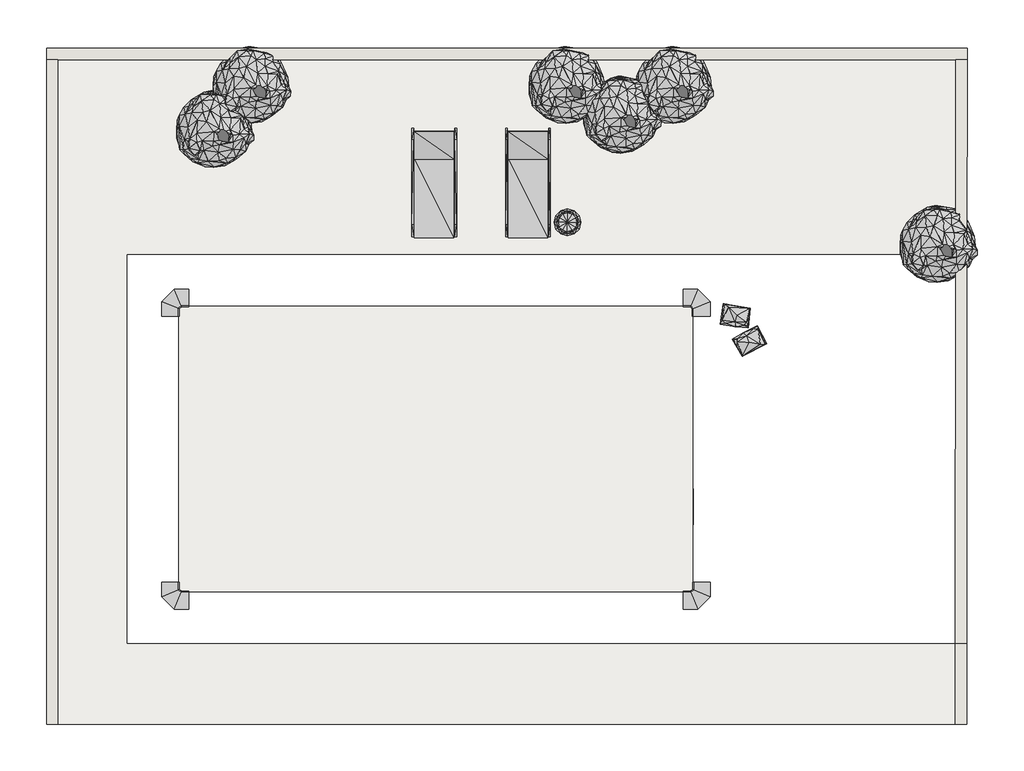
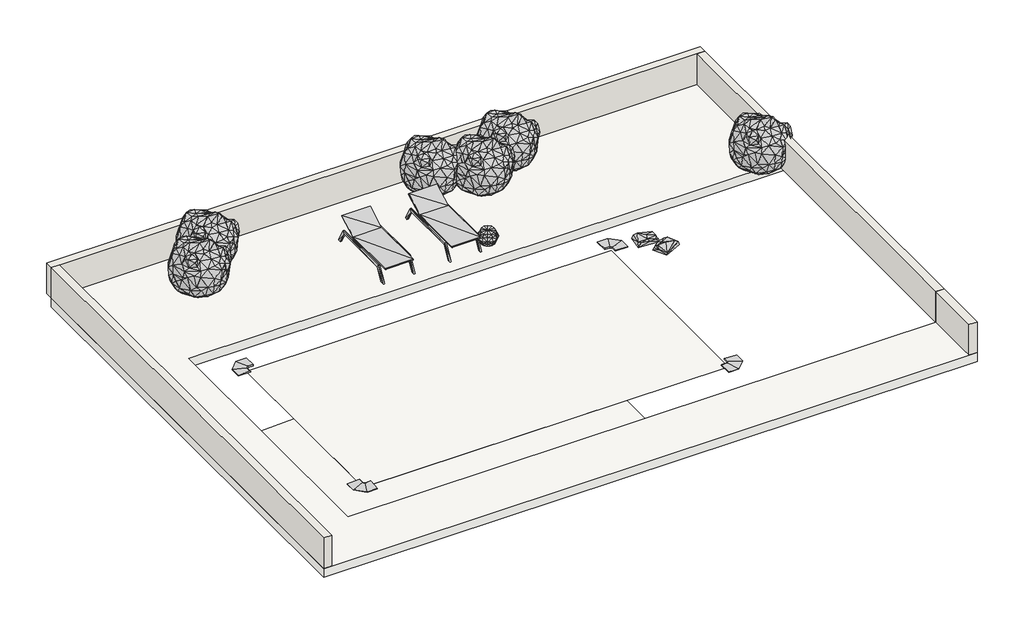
# One storey, incomplete: 11 geographic elements, 6 proxies, 5 walls, 4 slabs.
"""IFC4 building model written with IfcOpenShell, lengths in millimetres."""

from ifc_helpers import new_model, si_unit, frame, origin, origin_with_axes, place, context, project, spatial, polyline, outline, extrude, faceted_brep, transform, mapped, element, save
from components import generic_models_4be8d311, generic_models_225379f4, generic_models_d8669382, geographic_element_0c4992a3, geographic_element_0adfae54, enscape_assetdefinition_basket_enscape_assetdefinition_b8fa298a, enscape_assetdefinition_throw_enscape_assetdefinition_throw_fa2a812f

model = new_model("IFC4")

# Units and contexts
model_context = context("Model", 3, world=origin())
ifc_project = project(units=[si_unit("LENGTHUNIT", "METRE", prefix="MILLI")], contexts=[model_context])

# Site, building, storey
site = spatial("IfcSite", under=ifc_project)
building = spatial("IfcBuilding", under=site)
storey = spatial("IfcBuildingStorey", under=building, Name="1_NPlaya", Elevation=0.0)

# Proxies
placement = place(None, origin())
generic_models_shape = generic_models_4be8d311(model_context)
element("IfcBuildingElementProxy", 1, Name="ROSA GRES_E62 : Pieza E62_Serena_Ocra_Anti-Slip", ObjectType="ROSA GRES_E62 : Pieza E62_Serena_Ocra_Anti-Slip", at=placement, inside=storey, context=model_context, shape_type="MappedRepresentation", body=[
    mapped(generic_models_shape, transform((11999.2952669, 8887.3666411, -250.0), x_axis=(0.999999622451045, -0.0008689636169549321, 0.0), y_axis=(0.0008689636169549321, 0.999999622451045, 0.0), z_axis=(0.0, 0.0, 1.0))),
])
generic_models_2_shape = generic_models_225379f4(model_context)
element("IfcBuildingElementProxy", 2, Name="ROSA GRES_DL1 : Pieza DL1_Serena_Ocra_Anti-Slip", ObjectType="ROSA GRES_DL1 : Pieza DL1_Serena_Ocra_Anti-Slip", at=placement, inside=storey, context=model_context, shape_type="MappedRepresentation", body=[
    mapped(generic_models_2_shape, transform((10486.7115182, 8892.2561402, -288.0), x_axis=(0.0, -1.0, 0.0), y_axis=(1.0, 0.0, 0.0), z_axis=(0.0, 0.0, 1.0))),
])
generic_models_3_shape = generic_models_d8669382(model_context)
element("IfcBuildingElementProxy", 3, Name="ROSA GRES_SI3 : Pieza SI3_Serena_Ocra_Anti-Slip", ObjectType="ROSA GRES_SI3 : Pieza SI3_Serena_Ocra_Anti-Slip", at=placement, inside=storey, context=model_context, shape_type="MappedRepresentation", body=[
    mapped(generic_models_3_shape, transform((3004.8805511, 7090.52795, -12.2710273), x_axis=(-1.0, 0.0, 0.0), y_axis=(0.0, -1.0, 0.0), z_axis=(0.0, 0.0, 1.0))),
])
element("IfcBuildingElementProxy", 4, Name="ROSA GRES_SI3 : Pieza SI3_Serena_Ocra_Anti-Slip", ObjectType="ROSA GRES_SI3 : Pieza SI3_Serena_Ocra_Anti-Slip", at=placement, inside=storey, context=model_context, shape_type="MappedRepresentation", body=[
    mapped(generic_models_3_shape, transform((11993.3829178, 7090.7466993, -12.0175843), x_axis=(0.0, -1.0, 0.0), y_axis=(1.0, 0.0, 0.0), z_axis=(0.0, 0.0, 1.0))),
])
element("IfcBuildingElementProxy", 5, Name="ROSA GRES_SI3 : Pieza SI3_Serena_Ocra_Anti-Slip", ObjectType="ROSA GRES_SI3 : Pieza SI3_Serena_Ocra_Anti-Slip", at=placement, inside=storey, context=model_context, shape_type="MappedRepresentation", body=[
    mapped(generic_models_3_shape, transform((11993.0095542, 12079.1311411, -12.0), x_axis=(1.0, 0.0, 0.0), y_axis=(0.0, 1.0, 0.0), z_axis=(0.0, 0.0, 1.0))),
])
element("IfcBuildingElementProxy", 6, Name="ROSA GRES_SI3 : Pieza SI3_Serena_Ocra_Anti-Slip", ObjectType="ROSA GRES_SI3 : Pieza SI3_Serena_Ocra_Anti-Slip", at=placement, inside=storey, context=model_context, shape_type="MappedRepresentation", body=[
    mapped(generic_models_3_shape, transform((3004.8845491, 12079.1782457, -12.0022683), x_axis=(0.0, 1.0, 0.0), y_axis=(-1.0, 0.0, 0.0), z_axis=(0.0, 0.0, 1.0))),
])

# Geographic elements
geographic_element_shape = geographic_element_0c4992a3(model_context)
element("IfcGeographicElement", 7, ObjectType="Enscape AssetDefinition - Balm Bush : Enscape AssetDefinition - Balm Bush", at=placement, inside=storey, context=model_context, shape_type="MappedRepresentation", body=[
    mapped(geographic_element_shape, transform((3604.9159082, 15264.7561359, 0.0), x_axis=(1.0, 0.0, 0.0), y_axis=(0.0, 1.0, 0.0), z_axis=(0.0, 0.0, 1.0))),
])
element("IfcGeographicElement", 8, ObjectType="Enscape AssetDefinition - Balm Bush : Enscape AssetDefinition - Balm Bush", at=placement, inside=storey, context=model_context, shape_type="MappedRepresentation", body=[
    mapped(geographic_element_shape, transform((4250.7299409, 16034.9330082, 0.0), x_axis=(1.0, 0.0, 0.0), y_axis=(0.0, 1.0, 0.0), z_axis=(0.0, 0.0, 1.0))),
])
element("IfcGeographicElement", 9, ObjectType="Enscape AssetDefinition - Balm Bush : Enscape AssetDefinition - Balm Bush", at=placement, inside=storey, context=model_context, shape_type="MappedRepresentation", body=[
    mapped(geographic_element_shape, transform((9777.2422029, 16034.9330082, 0.0), x_axis=(1.0, 0.0, 0.0), y_axis=(0.0, 1.0, 0.0), z_axis=(0.0, 0.0, 1.0))),
])
element("IfcGeographicElement", 10, ObjectType="Enscape AssetDefinition - Balm Bush : Enscape AssetDefinition - Balm Bush", at=placement, inside=storey, context=model_context, shape_type="MappedRepresentation", body=[
    mapped(geographic_element_shape, transform((10732.4086368, 15514.9330082, 0.0), x_axis=(1.0, 0.0, 0.0), y_axis=(0.0, 1.0, 0.0), z_axis=(0.0, 0.0, 1.0))),
])
element("IfcGeographicElement", 11, ObjectType="Enscape AssetDefinition - Balm Bush : Enscape AssetDefinition - Balm Bush", at=placement, inside=storey, context=model_context, shape_type="MappedRepresentation", body=[
    mapped(geographic_element_shape, transform((11651.0201316, 16034.9330082, 0.0), x_axis=(1.0, 0.0, 0.0), y_axis=(0.0, 1.0, 0.0), z_axis=(0.0, 0.0, 1.0))),
])
element("IfcGeographicElement", 12, ObjectType="Enscape AssetDefinition - Balm Bush : Enscape AssetDefinition - Balm Bush", at=placement, inside=storey, context=model_context, shape_type="MappedRepresentation", body=[
    mapped(geographic_element_shape, transform((16272.4422029, 13250.1330082, 0.0), x_axis=(1.0, 0.0, 0.0), y_axis=(0.0, 1.0, 0.0), z_axis=(0.0, 0.0, 1.0))),
])
geographic_element_2_shape = geographic_element_0adfae54(model_context)
element("IfcGeographicElement", 13, ObjectType="Enscape AssetDefinition - Sunbed : Enscape AssetDefinition - Sunbed", at=placement, inside=storey, context=model_context, shape_type="MappedRepresentation", body=[
    mapped(geographic_element_2_shape, transform((7467.3710743, 14254.9330082, 0.0), x_axis=(1.0, 0.0, 0.0), y_axis=(0.0, 1.0, 0.0), z_axis=(0.0, 0.0, 1.0))),
])
element("IfcGeographicElement", 14, ObjectType="Enscape AssetDefinition - Sunbed : Enscape AssetDefinition - Sunbed", at=placement, inside=storey, context=model_context, shape_type="MappedRepresentation", body=[
    mapped(geographic_element_2_shape, transform((9111.4093177, 14254.9330082, 0.0), x_axis=(1.0, 0.0, 0.0), y_axis=(0.0, 1.0, 0.0), z_axis=(0.0, 0.0, 1.0))),
])
enscape_assetdefinition_basket_enscape_assetdefinition_shape = enscape_assetdefinition_basket_enscape_assetdefinition_b8fa298a(model_context)
element("IfcGeographicElement", 15, ObjectType="Enscape AssetDefinition - Basket : Enscape AssetDefinition - Basket", at=placement, inside=storey, context=model_context, shape_type="MappedRepresentation", body=[
    mapped(enscape_assetdefinition_basket_enscape_assetdefinition_shape, transform((9800.8138419, 13554.9330082, 0.0), x_axis=(1.0, 0.0, 0.0), y_axis=(0.0, 1.0, 0.0), z_axis=(0.0, 0.0, 1.0))),
])
enscape_assetdefinition_throw_enscape_assetdefinition_throw_shape = enscape_assetdefinition_throw_enscape_assetdefinition_throw_fa2a812f(model_context)
element("IfcGeographicElement", 16, ObjectType="Enscape AssetDefinition - Throw : Enscape AssetDefinition - Throw", at=placement, inside=storey, context=model_context, shape_type="MappedRepresentation", body=[
    mapped(enscape_assetdefinition_throw_enscape_assetdefinition_throw_shape, transform((12756.7009116, 11921.8457523, 0.0), x_axis=(-0.13917310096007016, -0.9902680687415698, 0.0), y_axis=(0.9902680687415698, -0.13917310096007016, 0.0), z_axis=(0.0, 0.0, 1.0))),
])
element("IfcGeographicElement", 17, ObjectType="Enscape AssetDefinition - Throw : Enscape AssetDefinition - Throw", at=placement, inside=storey, context=model_context, shape_type="MappedRepresentation", body=[
    mapped(enscape_assetdefinition_throw_enscape_assetdefinition_throw_shape, transform((12984.3738071, 11462.1634117, 0.0), x_axis=(-0.46947156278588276, 0.8829475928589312, 0.0), y_axis=(-0.8829475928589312, -0.46947156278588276, 0.0), z_axis=(0.0, 0.0, 1.0))),
])

# Slabs
element("IfcSlab", 18, ObjectType="Pieza 316_Patrón 1/3_Serena_Ocra_Anti-Slip", at=placement, inside=storey, context=model_context, shape_type="SweptSolid", body=[
    extrude(outline(polyline([(-1809.0072228, 2998.6345491), (-1509.0072228, 10485.2939568), (-1500.0, 10485.2939568), (-1800.0, 2998.6345491), (-1809.0072228, 2998.6345491)])), frame((0.0, 7084.7466994, 0.0), z_axis=(0.0, 1.0, 0.0), x_axis=(0.0, 0.0, 1.0)), (0.0, 0.0, 1.0), 5000.0094365),
])
element("IfcSlab", 19, ObjectType="Pieza 316_Patrón 1/3_Serena_Ocra_Anti-Slip", at=placement, inside=storey, context=model_context, shape_type="SweptSolid", body=[
    extrude(outline(polyline([(11995.868857, 12084.7561409), (11995.868857, 8890.8882063), (10803.5969926, 8890.8882063), (10803.5969926, 12084.7561409), (11995.868857, 12084.7561409)])), frame((0.0, 0.0, -259.0), z_axis=(0.0, 0.0, 1.0), x_axis=(1.0, 0.0, 0.0)), (0.0, 0.0, 1.0), 9.0),
])
element("IfcSlab", 20, ObjectType="GENÉRICO_HIERBA", at=placement, inside=storey, context=model_context, shape_type="SweptSolid", body=[
    extrude(outline(polyline([(16795.0378198, 12993.7561359), (2089.8845491, 12993.7561359), (2089.8845491, 6175.7467), (16791.7565525, 6175.7466989), (16791.7565525, 4767.7467), (681.6345491, 4767.7467), (681.6345491, 16401.7561359), (16797.9992501, 16401.7561359), (16795.0378198, 12993.7561359)])), frame((0.0, 0.0, -231.0), z_axis=(0.0, 0.0, 1.0), x_axis=(1.0, 0.0, 0.0)), (0.0, 0.0, 1.0), 231.0),
])
element("IfcSlab", 21, ObjectType="GENÉRICO_AGUA", at=placement, inside=storey, context=model_context, shape_type="SweptSolid", body=[
    extrude(outline(polyline([(11993.6240113, 12084.7879207), (11993.6240113, 7084.6249955), (2999.3935526, 7084.6249955), (2999.3935526, 12084.7879207), (11993.6240113, 12084.7879207)])), frame((0.0, 0.0, -101.0), z_axis=(0.0, 0.0, 1.0), x_axis=(1.0, 0.0, 0.0)), (0.0, 0.0, 1.0), 1.0),
])

# Walls
element("IfcWall", 22, ObjectType="GENÉRICO_MURO BASE 20 cm", at=placement, inside=storey, context=model_context, shape_type="Brep", body=[
    faceted_brep([(16798.173043, 16601.7561359, 0.0), (681.6345491, 16601.7561359, 0.0), (681.6345491, 16601.7561359, 800.0), (16798.173043, 16601.7561359, 800.0), (16797.9992501, 16401.7561359, 0.0), (16797.9992501, 16401.7561359, 800.0), (16597.9991746, 16401.7561359, 800.0), (881.6345491, 16401.7561359, 800.0), (681.6345491, 16401.7561359, 800.0), (681.6345491, 16401.7561359, 0.0), (881.6345491, 16401.7561359, 0.0), (16597.9991746, 16401.7561359, 0.0)], [[[0, 1, 2, 3]], [[4, 5, 6, 7, 8, 9, 10, 11]], [[1, 0, 4, 11, 10, 9]], [[3, 2, 8, 7, 6, 5]], [[0, 3, 5, 4]], [[2, 1, 9, 8]]]),
])
element("IfcWall", 23, ObjectType="GENÉRICO_MURO BASE 20 cm", at=placement, inside=storey, context=model_context, shape_type="SweptSolid", body=[
    extrude(outline(polyline([(16589.1133665, 6176.0102167), (16595.0378953, 12993.9299287), (16795.0378198, 12993.7561359), (16789.1132909, 6175.8364239), (16589.1133665, 6176.0102167)])), origin_with_axes(), (0.0, 0.0, 1.0), 800.0),
])
element("IfcWall", 24, ObjectType="GENÉRICO_MURO BASE 20 cm", at=placement, inside=storey, context=model_context, shape_type="SweptSolid", body=[
    extrude(outline(polyline([(16587.8897897, 4767.9238529), (16589.1133665, 6176.0102167), (16789.1132909, 6175.8364239), (16787.8897142, 4767.7500601), (16587.8897897, 4767.9238529)])), origin_with_axes(), (0.0, 0.0, 1.0), 800.0),
])
element("IfcWall", 25, ObjectType="GENÉRICO_MURO BASE 20 cm", at=placement, inside=storey, context=model_context, shape_type="SweptSolid", body=[
    extrude(outline(polyline([(16797.9992501, 16401.7561359), (16795.0378198, 12993.7561359), (16595.0378953, 12993.9299287), (16597.9991746, 16401.7561359), (16797.9992501, 16401.7561359)])), origin_with_axes(), (0.0, 0.0, 1.0), 800.0),
])
element("IfcWall", 26, ObjectType="GENÉRICO_MURO BASE 20 cm", at=placement, inside=storey, context=model_context, shape_type="SweptSolid", body=[
    extrude(outline(polyline([(881.6345491, 16401.7561359), (881.6345491, 4767.7467), (681.6345491, 4767.7467), (681.6345491, 16401.7561359), (881.6345491, 16401.7561359)])), origin_with_axes(), (0.0, 0.0, 1.0), 800.0),
])

save(model, "model.ifc")
